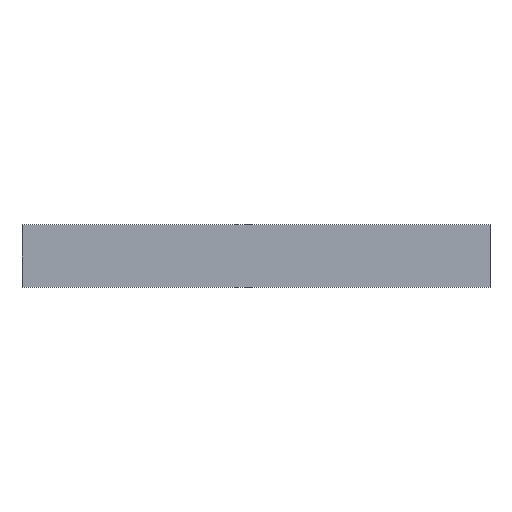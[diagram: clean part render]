
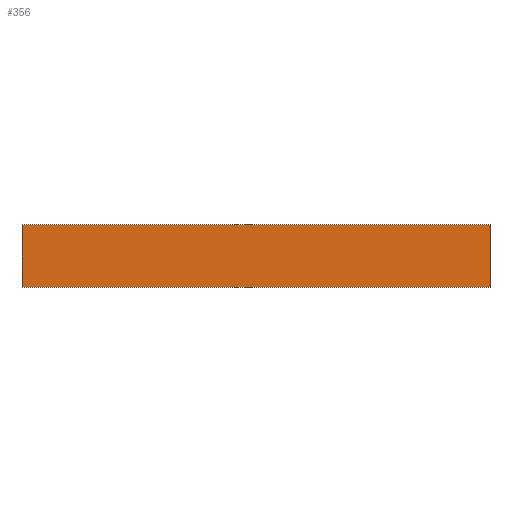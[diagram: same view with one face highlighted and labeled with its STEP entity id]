
A CAD part, top view. The second image highlights one B-rep face of the part: STEP entity #356.
In plain terms, the highlighted planar face has unit normal (0, 0, 1).
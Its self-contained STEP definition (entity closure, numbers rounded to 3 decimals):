
#42 = VERTEX_POINT('',#43);
#43 = CARTESIAN_POINT('',(-15.,-2.,0.05));
#50 = PLANE('',#51);
#51 = AXIS2_PLACEMENT_3D('',#52,#53,#54);
#52 = CARTESIAN_POINT('',(-15.,-2.,-0.05));
#53 = DIRECTION('',(1.,0.,-0.));
#54 = DIRECTION('',(0.,0.,1.));
#62 = PLANE('',#63);
#63 = AXIS2_PLACEMENT_3D('',#64,#65,#66);
#64 = CARTESIAN_POINT('',(-15.,-2.,-0.05));
#65 = DIRECTION('',(-0.,1.,0.));
#66 = DIRECTION('',(0.,0.,1.));
#103 = VERTEX_POINT('',#104);
#104 = CARTESIAN_POINT('',(-15.,2.,0.05));
#118 = PLANE('',#119);
#119 = AXIS2_PLACEMENT_3D('',#120,#121,#122);
#120 = CARTESIAN_POINT('',(-15.,2.,-0.05));
#121 = DIRECTION('',(-0.,1.,0.));
#122 = DIRECTION('',(0.,0.,1.));
#130 = EDGE_CURVE('',#42,#103,#131,.T.);
#131 = SURFACE_CURVE('',#132,(#136,#143),.PCURVE_S1.);
#132 = LINE('',#133,#134);
#133 = CARTESIAN_POINT('',(-15.,-2.,0.05));
#134 = VECTOR('',#135,1.);
#135 = DIRECTION('',(-0.,1.,0.));
#136 = PCURVE('',#50,#137);
#137 = DEFINITIONAL_REPRESENTATION('',(#138),#142);
#138 = LINE('',#139,#140);
#139 = CARTESIAN_POINT('',(0.1,0.));
#140 = VECTOR('',#141,1.);
#141 = DIRECTION('',(0.,-1.));
#142 = ( GEOMETRIC_REPRESENTATION_CONTEXT(2) 
PARAMETRIC_REPRESENTATION_CONTEXT() REPRESENTATION_CONTEXT('2D SPACE',''
  ) );
#143 = PCURVE('',#144,#149);
#144 = PLANE('',#145);
#145 = AXIS2_PLACEMENT_3D('',#146,#147,#148);
#146 = CARTESIAN_POINT('',(-15.,-2.,0.05));
#147 = DIRECTION('',(0.,0.,1.));
#148 = DIRECTION('',(1.,0.,-0.));
#149 = DEFINITIONAL_REPRESENTATION('',(#150),#154);
#150 = LINE('',#151,#152);
#151 = CARTESIAN_POINT('',(0.,0.));
#152 = VECTOR('',#153,1.);
#153 = DIRECTION('',(0.,1.));
#154 = ( GEOMETRIC_REPRESENTATION_CONTEXT(2) 
PARAMETRIC_REPRESENTATION_CONTEXT() REPRESENTATION_CONTEXT('2D SPACE',''
  ) );
#162 = VERTEX_POINT('',#163);
#163 = CARTESIAN_POINT('',(15.,-2.,0.05));
#170 = PLANE('',#171);
#171 = AXIS2_PLACEMENT_3D('',#172,#173,#174);
#172 = CARTESIAN_POINT('',(15.,-2.,-0.05));
#173 = DIRECTION('',(1.,0.,-0.));
#174 = DIRECTION('',(0.,0.,1.));
#213 = VERTEX_POINT('',#214);
#214 = CARTESIAN_POINT('',(15.,2.,0.05));
#235 = EDGE_CURVE('',#162,#213,#236,.T.);
#236 = SURFACE_CURVE('',#237,(#241,#248),.PCURVE_S1.);
#237 = LINE('',#238,#239);
#238 = CARTESIAN_POINT('',(15.,-2.,0.05));
#239 = VECTOR('',#240,1.);
#240 = DIRECTION('',(-0.,1.,0.));
#241 = PCURVE('',#170,#242);
#242 = DEFINITIONAL_REPRESENTATION('',(#243),#247);
#243 = LINE('',#244,#245);
#244 = CARTESIAN_POINT('',(0.1,0.));
#245 = VECTOR('',#246,1.);
#246 = DIRECTION('',(0.,-1.));
#247 = ( GEOMETRIC_REPRESENTATION_CONTEXT(2) 
PARAMETRIC_REPRESENTATION_CONTEXT() REPRESENTATION_CONTEXT('2D SPACE',''
  ) );
#248 = PCURVE('',#144,#249);
#249 = DEFINITIONAL_REPRESENTATION('',(#250),#254);
#250 = LINE('',#251,#252);
#251 = CARTESIAN_POINT('',(30.,0.));
#252 = VECTOR('',#253,1.);
#253 = DIRECTION('',(0.,1.));
#254 = ( GEOMETRIC_REPRESENTATION_CONTEXT(2) 
PARAMETRIC_REPRESENTATION_CONTEXT() REPRESENTATION_CONTEXT('2D SPACE',''
  ) );
#281 = EDGE_CURVE('',#42,#162,#282,.T.);
#282 = SURFACE_CURVE('',#283,(#287,#294),.PCURVE_S1.);
#283 = LINE('',#284,#285);
#284 = CARTESIAN_POINT('',(-15.,-2.,0.05));
#285 = VECTOR('',#286,1.);
#286 = DIRECTION('',(1.,0.,-0.));
#287 = PCURVE('',#62,#288);
#288 = DEFINITIONAL_REPRESENTATION('',(#289),#293);
#289 = LINE('',#290,#291);
#290 = CARTESIAN_POINT('',(0.1,0.));
#291 = VECTOR('',#292,1.);
#292 = DIRECTION('',(0.,1.));
#293 = ( GEOMETRIC_REPRESENTATION_CONTEXT(2) 
PARAMETRIC_REPRESENTATION_CONTEXT() REPRESENTATION_CONTEXT('2D SPACE',''
  ) );
#294 = PCURVE('',#144,#295);
#295 = DEFINITIONAL_REPRESENTATION('',(#296),#300);
#296 = LINE('',#297,#298);
#297 = CARTESIAN_POINT('',(0.,0.));
#298 = VECTOR('',#299,1.);
#299 = DIRECTION('',(1.,0.));
#300 = ( GEOMETRIC_REPRESENTATION_CONTEXT(2) 
PARAMETRIC_REPRESENTATION_CONTEXT() REPRESENTATION_CONTEXT('2D SPACE',''
  ) );
#328 = EDGE_CURVE('',#103,#213,#329,.T.);
#329 = SURFACE_CURVE('',#330,(#334,#341),.PCURVE_S1.);
#330 = LINE('',#331,#332);
#331 = CARTESIAN_POINT('',(-15.,2.,0.05));
#332 = VECTOR('',#333,1.);
#333 = DIRECTION('',(1.,0.,-0.));
#334 = PCURVE('',#118,#335);
#335 = DEFINITIONAL_REPRESENTATION('',(#336),#340);
#336 = LINE('',#337,#338);
#337 = CARTESIAN_POINT('',(0.1,0.));
#338 = VECTOR('',#339,1.);
#339 = DIRECTION('',(0.,1.));
#340 = ( GEOMETRIC_REPRESENTATION_CONTEXT(2) 
PARAMETRIC_REPRESENTATION_CONTEXT() REPRESENTATION_CONTEXT('2D SPACE',''
  ) );
#341 = PCURVE('',#144,#342);
#342 = DEFINITIONAL_REPRESENTATION('',(#343),#347);
#343 = LINE('',#344,#345);
#344 = CARTESIAN_POINT('',(0.,4.));
#345 = VECTOR('',#346,1.);
#346 = DIRECTION('',(1.,0.));
#347 = ( GEOMETRIC_REPRESENTATION_CONTEXT(2) 
PARAMETRIC_REPRESENTATION_CONTEXT() REPRESENTATION_CONTEXT('2D SPACE',''
  ) );
#356 = ADVANCED_FACE('',(#357),#144,.T.);
#357 = FACE_BOUND('',#358,.T.);
#358 = EDGE_LOOP('',(#359,#360,#361,#362));
#359 = ORIENTED_EDGE('',*,*,#130,.F.);
#360 = ORIENTED_EDGE('',*,*,#281,.T.);
#361 = ORIENTED_EDGE('',*,*,#235,.T.);
#362 = ORIENTED_EDGE('',*,*,#328,.F.);
